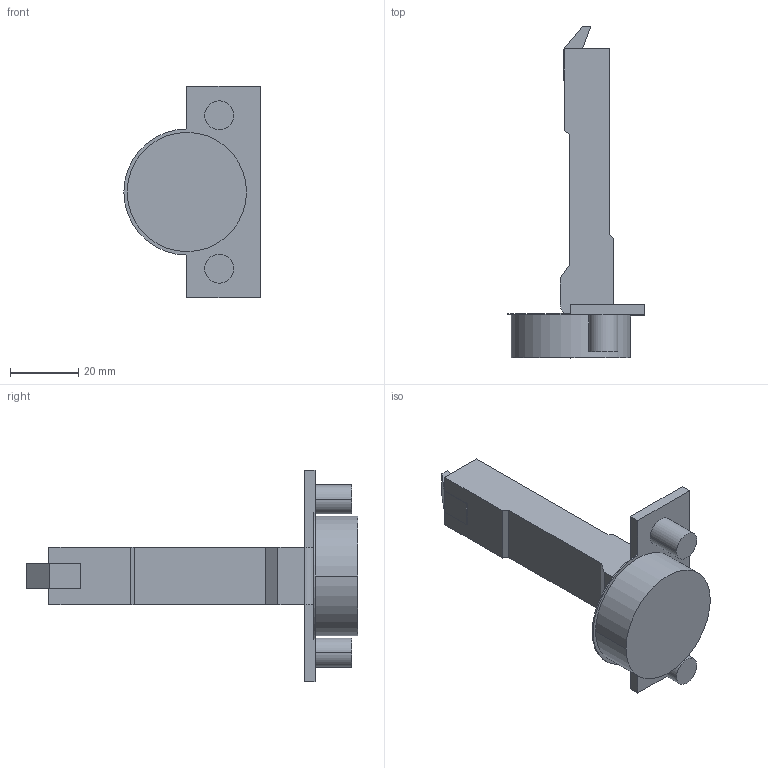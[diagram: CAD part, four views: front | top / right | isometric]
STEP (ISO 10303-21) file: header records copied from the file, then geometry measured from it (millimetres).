
FILE_DESCRIPTION (( 'STEP AP214' ), '1' );
FILE_NAME ('Scharnier Click-on 100°-neuScharnier T Click-on 100° B_BB, K03_Dübel.step', '2018-10-02T12:20:25', ( '' ), ( '' ), 'SwSTEP 2.0', 'SolidWorks 2017', '' );
FILE_SCHEMA (( 'AUTOMOTIVE_DESIGN' ));
Length unit declared in the file: millimetre
Products named in the file (1): Scharnier Click-on 100°-neuScharnier T Click-on 100° B_BB, K03_Dübel
Bounding box: 40 x 97.4 x 62 mm (x, y, z)
Volume: 34213.8 mm3; surface area: 11060.5 mm2
Topology: 1 solids, 1 shells, 55 faces, 135 edges, 90 vertices
Faces by surface type: plane 36, cylinder 19
Entity records: 1661 total; most frequent: DIRECTION 285, CARTESIAN_POINT 281, ORIENTED_EDGE 270, EDGE_CURVE 135, VECTOR 97, LINE 97, AXIS2_PLACEMENT_3D 94, VERTEX_POINT 90
